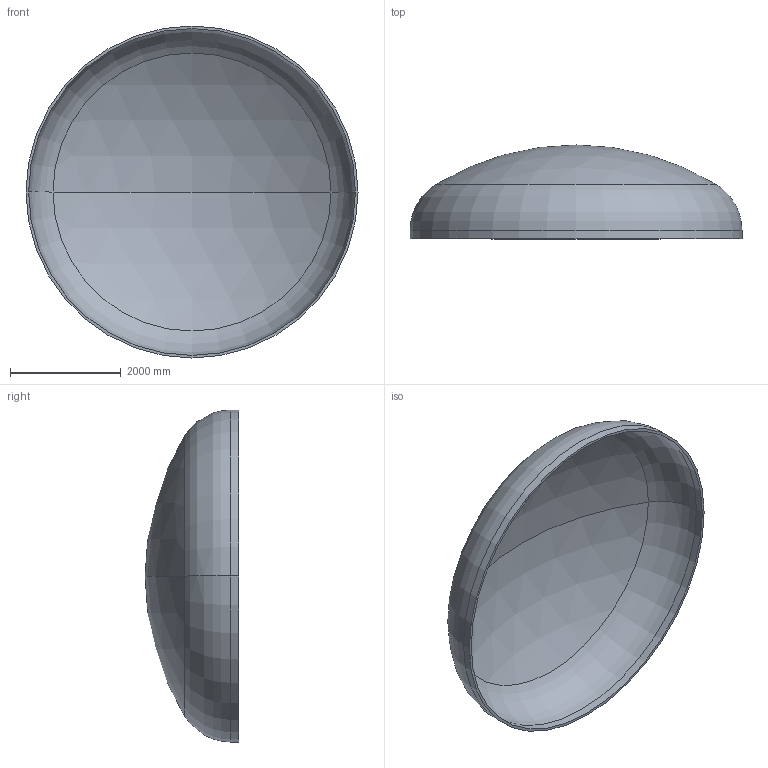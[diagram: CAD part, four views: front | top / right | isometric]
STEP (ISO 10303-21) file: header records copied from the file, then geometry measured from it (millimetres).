
FILE_DESCRIPTION (( 'STEP AP203' ), '1' );
FILE_NAME ('DIN 28013 Korbbogenform_-_Boden DIN 28013 - 6000 x 150 - I - s=47.step', '2016-07-04T10:37:16', ( '' ), ( '' ), 'SwSTEP 2.0', 'SolidWorks 2013', '' );
FILE_SCHEMA (( 'CONFIG_CONTROL_DESIGN' ));
Length unit declared in the file: millimetre
Products named in the file (1): DIN 28013 Korbbogenform_-_Boden DIN 28013 - 6000 x 150 - I - s=47
Bounding box: 6000 x 1695.06 x 6000 mm (x, y, z)
Volume: 1953779539 mm3; surface area: 84023139.2 mm2
Topology: 1 solids, 1 shells, 13 faces, 24 edges, 14 vertices
Faces by surface type: torus 4, cylinder 4, sphere 4, plane 1
Entity records: 407 total; most frequent: DIRECTION 72, CARTESIAN_POINT 52, ORIENTED_EDGE 48, AXIS2_PLACEMENT_3D 34, EDGE_CURVE 24, CIRCLE 20, VERTEX_POINT 14, EDGE_LOOP 14
